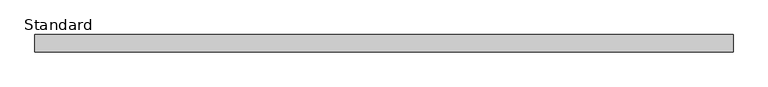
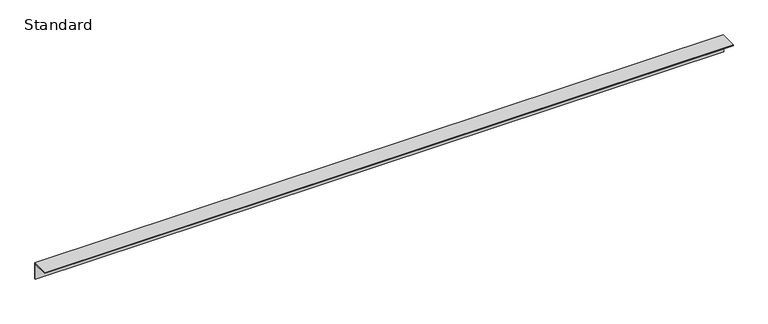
"""IFC4 building model written with IfcOpenShell, lengths in millimetres: furniture geometry, X_Vanity-Angle-Duracube-Bench Support : Standard."""

from ifc_helpers import new_model, si_unit, frame, origin, place, context, project, spatial, polyline, outline, extrude, source, transform, mapped, element, save


def standard_45df0485(model_context):
    return source(origin(), model_context, "Body", "SweptSolid", [
        extrude(outline(polyline([(0.0, 0.0), (-2.0, 0.0), (-2.0, 38.0), (-40.0, 38.0), (-40.0, 40.0), (0.0, 40.0), (0.0, 0.0)])), frame((-761.7996736, 0.0, 0.0), z_axis=(1.0, 0.0, 0.0), x_axis=(0.0, 1.0, 0.0)), (0.0, 0.0, 1.0), 1613.0),
    ])


if __name__ == "__main__":
    model = new_model("IFC4")
    model_context = context("Model", 3, world=origin())
    ifc_project = project(units=[si_unit("LENGTHUNIT", "METRE", prefix="MILLI")], contexts=[model_context])
    site = spatial("IfcSite", under=ifc_project)
    building = spatial("IfcBuilding", under=site)
    placement = place(None, origin())
    standard_shape = standard_45df0485(model_context)
    element("IfcFurniture", 1, ObjectType="X_Vanity-Angle-Duracube-Bench Support : Standard", at=placement, inside=building, context=model_context, shape_type="MappedRepresentation", body=[
        mapped(standard_shape, transform((0.0, 0.0, 0.0), x_axis=(1.0, 0.0, 0.0), y_axis=(0.0, 1.0, 0.0), z_axis=(0.0, 0.0, 1.0))),
    ])
    save(model, "model.ifc")
